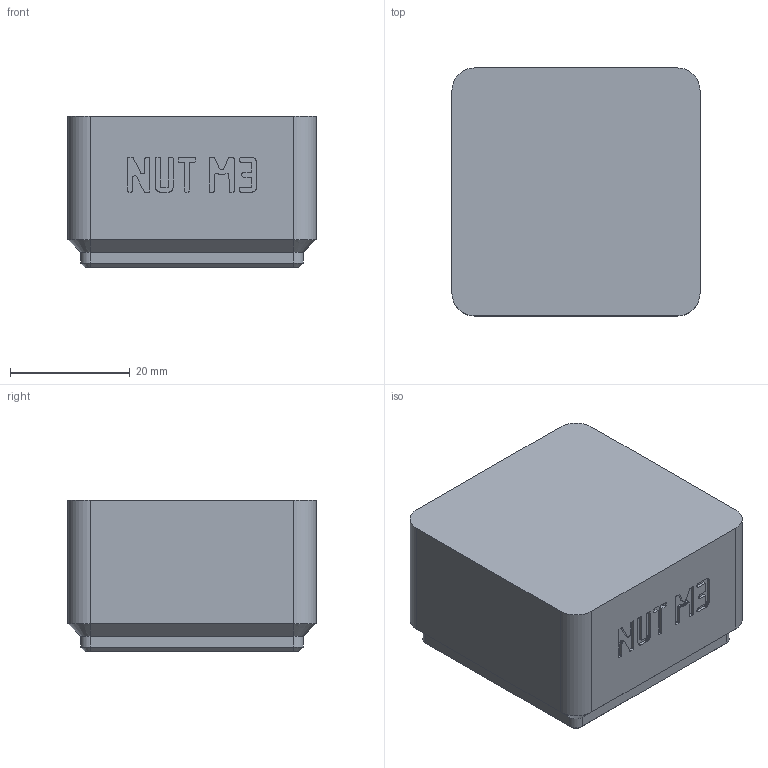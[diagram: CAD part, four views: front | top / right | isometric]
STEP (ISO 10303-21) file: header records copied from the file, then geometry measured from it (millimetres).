
FILE_DESCRIPTION(('Open CASCADE Model'),'2;1');
FILE_NAME('Open CASCADE Shape Model','2026-11-03T16:22:24',('Author'),( 'Open CASCADE'),'Open CASCADE STEP processor 8.0','build123d', 'Unknown');
FILE_SCHEMA(('AUTOMOTIVE_DESIGN { 1 0 10303 214 1 1 1 1 }'));
Products named in the file (1): COMPOUND
Bounding box: 41.5 x 41.5 x 25.4 mm (x, y, z)
Volume: 14674.7 mm3; surface area: 13541.5 mm2
Topology: 1 solids, 2 shells, 979 faces, 2852 edges, 1888 vertices
Faces by surface type: plane 943, cylinder 16, cone 12, bspline 8
Entity records: 68678 total; most frequent: CARTESIAN_POINT 11688, DIRECTION 10400, LINE 8352, VECTOR 8352, ORIENTED_EDGE 5704, PCURVE 5704, DEFINITIONAL_REPRESENTATION 5704, EDGE_CURVE 2852
